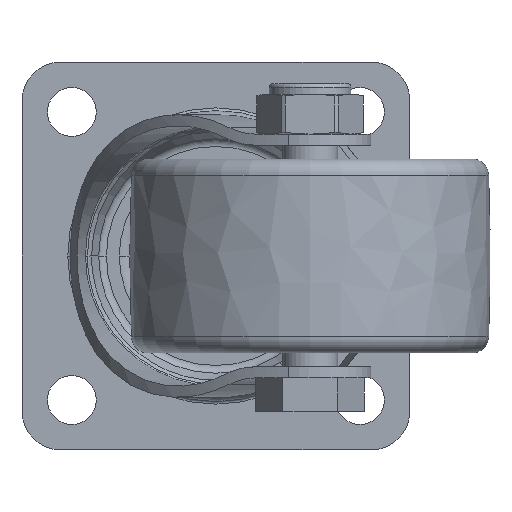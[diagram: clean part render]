
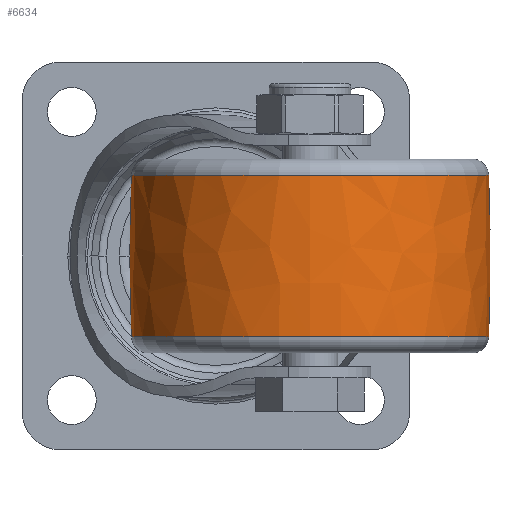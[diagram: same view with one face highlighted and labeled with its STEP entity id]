
A CAD part, front view. The second image highlights one B-rep face of the part: STEP entity #6634.
In plain terms, the highlighted free-form (B-spline) face has degree [3, 3] with [7, 4] control points.
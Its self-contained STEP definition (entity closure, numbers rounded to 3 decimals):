
#5978=CARTESIAN_POINT('',(0.,-367.754,0.));
#5979=DIRECTION('',(0.,0.,1.));
#5980=DIRECTION('',(0.037,0.999,0.));
#5981=AXIS2_PLACEMENT_3D('',#5978,#5979,#5980);
#5983=CARTESIAN_POINT('',(0.,367.754,0.));
#5984=DIRECTION('',(0.,0.,-1.));
#5985=DIRECTION('',(0.037,-0.999,0.));
#5986=AXIS2_PLACEMENT_3D('',#5983,#5984,#5985);
#5988=CARTESIAN_POINT('',(14.61,0.,0.));
#5989=DIRECTION('',(-1.,0.,0.));
#5990=DIRECTION('',(0.,1.,0.));
#5991=AXIS2_PLACEMENT_3D('',#5988,#5989,#5990);
#6013=CARTESIAN_POINT('',(-14.61,0.,0.));
#6014=DIRECTION('',(-1.,0.,0.));
#6015=DIRECTION('',(0.,1.,0.));
#6016=AXIS2_PLACEMENT_3D('',#6013,#6014,#6015);
#6055=CARTESIAN_POINT('',(14.61,32.23,0.));
#6057=VERTEX_POINT('',#6055);
#6058=CARTESIAN_POINT('',(-14.61,32.23,0.));
#6059=VERTEX_POINT('',#6058);
#6099=CARTESIAN_POINT('',(14.61,-32.23,0.));
#6101=VERTEX_POINT('',#6099);
#6102=CARTESIAN_POINT('',(-14.61,-32.23,0.));
#6103=VERTEX_POINT('',#6102);
#6596=CARTESIAN_POINT('',(-15.194,-32.144,
2.022));
#6597=CARTESIAN_POINT('',(-5.067,-32.528,
2.046));
#6598=CARTESIAN_POINT('',(5.067,-32.528,2.046));
#6599=CARTESIAN_POINT('',(15.194,-32.144,2.022));
#6600=CARTESIAN_POINT('',(-15.194,-33.389,
-17.759));
#6601=CARTESIAN_POINT('',(-5.067,-33.788,
-17.971));
#6602=CARTESIAN_POINT('',(5.067,-33.788,
-17.971));
#6603=CARTESIAN_POINT('',(15.194,-33.389,
-17.759));
#6604=CARTESIAN_POINT('',(-15.194,-19.821,
-32.208));
#6605=CARTESIAN_POINT('',(-5.067,-20.057,
-32.592));
#6606=CARTESIAN_POINT('',(5.067,-20.057,
-32.592));
#6607=CARTESIAN_POINT('',(15.194,-19.821,
-32.208));
#6608=CARTESIAN_POINT('',(-15.194,0.,-32.208));
#6609=CARTESIAN_POINT('',(-5.067,0.,-32.592));
#6610=CARTESIAN_POINT('',(5.067,0.,-32.592));
#6611=CARTESIAN_POINT('',(15.194,0.,-32.208));
#6612=CARTESIAN_POINT('',(-15.194,19.821,
-32.208));
#6613=CARTESIAN_POINT('',(-5.067,20.057,
-32.592));
#6614=CARTESIAN_POINT('',(5.067,20.057,-32.592));
#6615=CARTESIAN_POINT('',(15.194,19.821,-32.208));
#6616=CARTESIAN_POINT('',(-15.194,33.389,
-17.759));
#6617=CARTESIAN_POINT('',(-5.067,33.788,
-17.971));
#6618=CARTESIAN_POINT('',(5.067,33.788,-17.971));
#6619=CARTESIAN_POINT('',(15.194,33.389,-17.759));
#6620=CARTESIAN_POINT('',(-15.194,32.144,2.022));
#6621=CARTESIAN_POINT('',(-5.067,32.528,2.046));
#6622=CARTESIAN_POINT('',(5.067,32.528,2.046));
#6623=CARTESIAN_POINT('',(15.194,32.144,2.022));
#6624=(BOUNDED_SURFACE()B_SPLINE_SURFACE(3,3,((#6596,#6597,#6598,#6599),(#6600,
#6601,#6602,#6603),(#6604,#6605,#6606,#6607),(#6608,#6609,#6610,#6611),(#6612,
#6613,#6614,#6615),(#6616,#6617,#6618,#6619),(#6620,#6621,#6622,#6623)),
.UNSPECIFIED.,.F.,.F.,.F.)B_SPLINE_SURFACE_WITH_KNOTS((4,3,4),(4,4),(0.,1.,
2.),(0.,1.),.UNSPECIFIED.)GEOMETRIC_REPRESENTATION_ITEM()RATIONAL_B_SPLINE_SURFACE(((1.188,1.187,1.187,1.188),(
0.938,0.937,0.937,0.938),(
0.938,0.937,0.937,0.938),(
1.188,1.187,1.187,1.188),(
0.938,0.937,0.937,0.938),(
0.938,0.937,0.937,0.938),(
1.188,1.187,1.187,1.188)))REPRESENTATION_ITEM('')SURFACE());
#6626=ORIENTED_EDGE('',*,*,#6625,.T.);
#6628=ORIENTED_EDGE('',*,*,#6627,.T.);
#6630=ORIENTED_EDGE('',*,*,#6629,.F.);
#6631=ORIENTED_EDGE('',*,*,#6589,.F.);
#6632=EDGE_LOOP('',(#6626,#6628,#6630,#6631));
#6633=FACE_OUTER_BOUND('',#6632,.F.);
#5982=CIRCLE('',#5981,400.25);
#5987=CIRCLE('',#5986,400.25);
#5992=CIRCLE('',#5991,32.23);
#6017=CIRCLE('',#6016,32.23);
#6589=EDGE_CURVE('',#6057,#6101,#5992,.T.);
#6625=EDGE_CURVE('',#6057,#6059,#5982,.T.);
#6627=EDGE_CURVE('',#6059,#6103,#6017,.T.);
#6629=EDGE_CURVE('',#6101,#6103,#5987,.T.);
#6634=ADVANCED_FACE('',(#6633),#6624,.T.);
